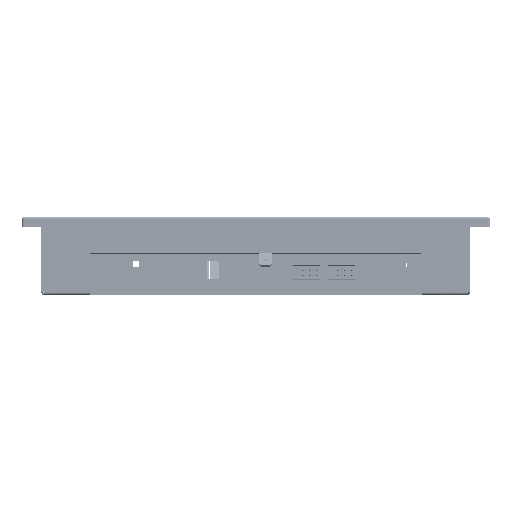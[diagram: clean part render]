
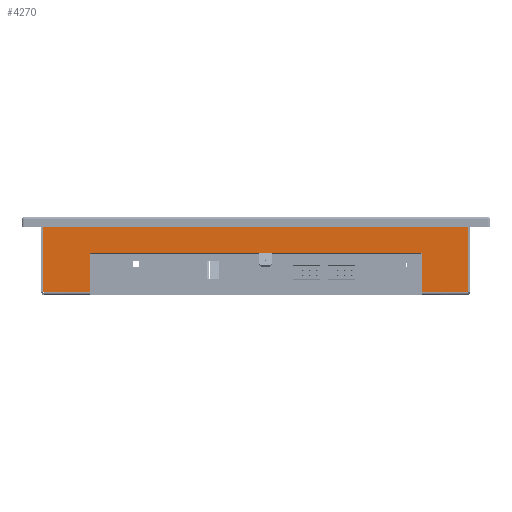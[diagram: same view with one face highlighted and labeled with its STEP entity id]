
A CAD part, front view. The second image highlights one B-rep face of the part: STEP entity #4270.
In plain terms, the highlighted planar face has unit normal (0, -1, 0).
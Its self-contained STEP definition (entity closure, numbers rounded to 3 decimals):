
#1005 = VERTEX_POINT ( 'NONE', #9568 ) ;
#2708 = VERTEX_POINT ( 'NONE', #45890 ) ;
#2924 = EDGE_CURVE ( 'NONE', #4147, #57704, #72698, .T. ) ;
#3633 = CARTESIAN_POINT ( 'NONE',  ( 218., -1., -34.1 ) ) ;
#4147 = VERTEX_POINT ( 'NONE', #10598 ) ;
#4270 = ADVANCED_FACE ( 'NONE', ( #80236 ), #75104, .F. ) ;
#5181 = ORIENTED_EDGE ( 'NONE', *, *, #17569, .T. ) ;
#8940 = VERTEX_POINT ( 'NONE', #32808 ) ;
#9568 = CARTESIAN_POINT ( 'NONE',  ( 217.9, -1., -0.5 ) ) ;
#10198 = VERTEX_POINT ( 'NONE', #42499 ) ;
#10210 = VERTEX_POINT ( 'NONE', #40543 ) ;
#10598 = CARTESIAN_POINT ( 'NONE',  ( 24., -1., -20.5 ) ) ;
#10743 = CARTESIAN_POINT ( 'NONE',  ( 0.1, -1., -0.5 ) ) ;
#12594 = ORIENTED_EDGE ( 'NONE', *, *, #2924, .T. ) ;
#15388 = VECTOR ( 'NONE', #41837, 1000. ) ;
#16182 = EDGE_CURVE ( 'NONE', #1005, #10198, #17623, .T. ) ;
#17569 = EDGE_CURVE ( 'NONE', #8940, #10198, #32322, .T. ) ;
#17623 = LINE ( 'NONE', #56419, #49377 ) ;
#18674 = CARTESIAN_POINT ( 'NONE',  ( 194., -1., -20.5 ) ) ;
#19032 = LINE ( 'NONE', #79758, #50787 ) ;
#22722 = ORIENTED_EDGE ( 'NONE', *, *, #40014, .F. ) ;
#24714 = AXIS2_PLACEMENT_3D ( 'NONE', #74731, #74128, #73863 ) ;
#30612 = ORIENTED_EDGE ( 'NONE', *, *, #16182, .F. ) ;
#31916 = EDGE_CURVE ( 'NONE', #10210, #2708, #62981, .T. ) ;
#32322 = LINE ( 'NONE', #3633, #15388 ) ;
#32808 = CARTESIAN_POINT ( 'NONE',  ( 0.1, -1., -34.1 ) ) ;
#33192 = EDGE_CURVE ( 'NONE', #64699, #8940, #33911, .T. ) ;
#33591 = VECTOR ( 'NONE', #61180, 1000. ) ;
#33911 = LINE ( 'NONE', #70633, #82378 ) ;
#35737 = EDGE_LOOP ( 'NONE', ( #67342, #12594, #65065, #41950, #5181, #30612, #22722, #40641 ) ) ;
#36664 = LINE ( 'NONE', #61921, #68426 ) ;
#38147 = CARTESIAN_POINT ( 'NONE',  ( 24., -1., -20.5 ) ) ;
#39079 = DIRECTION ( 'NONE',  ( 0., 0., 1. ) ) ;
#40014 = EDGE_CURVE ( 'NONE', #2708, #1005, #19032, .T. ) ;
#40543 = CARTESIAN_POINT ( 'NONE',  ( 194., -1., -20.5 ) ) ;
#40641 = ORIENTED_EDGE ( 'NONE', *, *, #31916, .F. ) ;
#41837 = DIRECTION ( 'NONE',  ( 1., 0., 0. ) ) ;
#41950 = ORIENTED_EDGE ( 'NONE', *, *, #33192, .T. ) ;
#42499 = CARTESIAN_POINT ( 'NONE',  ( 217.9, -1., -34.1 ) ) ;
#42720 = DIRECTION ( 'NONE',  ( 1., 0., 0. ) ) ;
#44175 = DIRECTION ( 'NONE',  ( 0., 0., 1. ) ) ;
#45350 = DIRECTION ( 'NONE',  ( 0., 0., -1. ) ) ;
#45614 = CARTESIAN_POINT ( 'NONE',  ( 24., -1., -0.5 ) ) ;
#45890 = CARTESIAN_POINT ( 'NONE',  ( 194., -1., -0.5 ) ) ;
#48236 = DIRECTION ( 'NONE',  ( 1., 0., 0. ) ) ;
#49377 = VECTOR ( 'NONE', #69153, 1000. ) ;
#50449 = LINE ( 'NONE', #67528, #33591 ) ;
#50787 = VECTOR ( 'NONE', #48236, 1000. ) ;
#56419 = CARTESIAN_POINT ( 'NONE',  ( 217.9, -1., -0.5 ) ) ;
#57704 = VERTEX_POINT ( 'NONE', #45614 ) ;
#59082 = EDGE_CURVE ( 'NONE', #64699, #57704, #36664, .T. ) ;
#61180 = DIRECTION ( 'NONE',  ( 1., 0., 0. ) ) ;
#61921 = CARTESIAN_POINT ( 'NONE',  ( 0., -1., -0.5 ) ) ;
#62981 = LINE ( 'NONE', #18674, #77744 ) ;
#64699 = VERTEX_POINT ( 'NONE', #10743 ) ;
#65065 = ORIENTED_EDGE ( 'NONE', *, *, #59082, .F. ) ;
#67342 = ORIENTED_EDGE ( 'NONE', *, *, #81359, .F. ) ;
#67528 = CARTESIAN_POINT ( 'NONE',  ( 24., -1., -20.5 ) ) ;
#68426 = VECTOR ( 'NONE', #42720, 1000. ) ;
#69153 = DIRECTION ( 'NONE',  ( 0., 0., -1. ) ) ;
#70633 = CARTESIAN_POINT ( 'NONE',  ( 0.1, -1., -0.5 ) ) ;
#70765 = VECTOR ( 'NONE', #39079, 1000. ) ;
#72698 = LINE ( 'NONE', #38147, #70765 ) ;
#73863 = DIRECTION ( 'NONE',  ( 0., 0., 1. ) ) ;
#74128 = DIRECTION ( 'NONE',  ( 0., 1., 0. ) ) ;
#74731 = CARTESIAN_POINT ( 'NONE',  ( 0., -1., 0. ) ) ;
#75104 = PLANE ( 'NONE',  #24714 ) ;
#77744 = VECTOR ( 'NONE', #44175, 1000. ) ;
#79758 = CARTESIAN_POINT ( 'NONE',  ( 0., -1., -0.5 ) ) ;
#80236 = FACE_OUTER_BOUND ( 'NONE', #35737, .T. ) ;
#81359 = EDGE_CURVE ( 'NONE', #4147, #10210, #50449, .T. ) ;
#82378 = VECTOR ( 'NONE', #45350, 1000. ) ;
